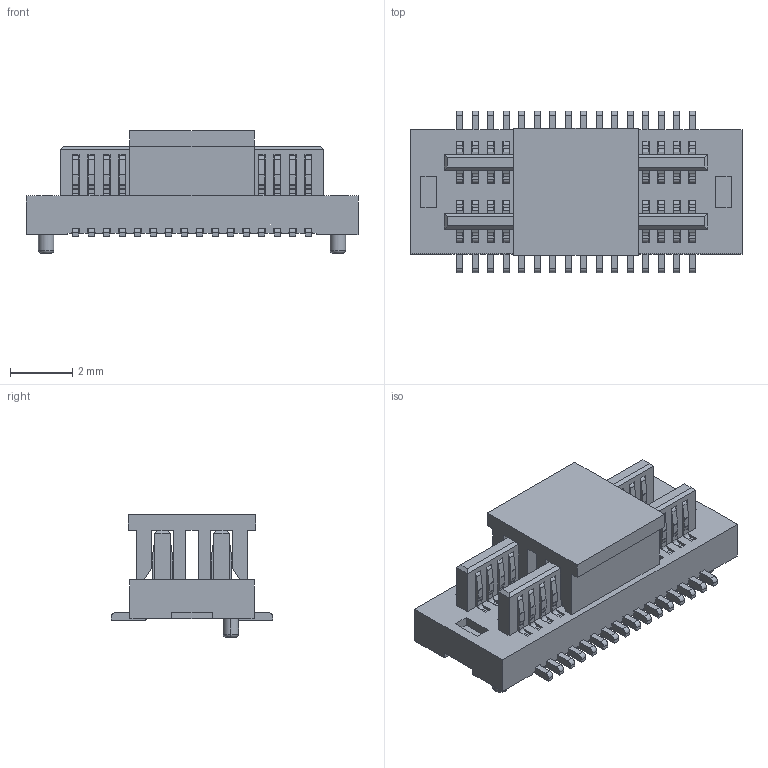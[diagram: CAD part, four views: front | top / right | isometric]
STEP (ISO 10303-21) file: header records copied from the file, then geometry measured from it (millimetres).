
FILE_DESCRIPTION(('CATIA V5 STEP Exchange'),'2;1');
FILE_NAME('F:\黄富鸿\板对板\PBB05\公座\H1.3\编带+盖\HC-PBB05-2-32-M-H1.3-G1-R-P-04（BTB0.5 双槽 公座 立贴 带柱 编带+盖）-HCTL.stp','2025-12-17T02:57:16+00:00',('none'),('none'),'CATIA Version 5 Release 20 GA (IN-10)','CATIA V5 STEP AP203','none');
FILE_SCHEMA(('CONFIG_CONTROL_DESIGN'));
Length unit declared in the file: millimetre
Products named in the file (1): Part2
Bounding box: 10.7 x 5.2 x 3.95 mm (x, y, z)
Volume: 84.3 mm3; surface area: 636.5 mm2
Topology: 34 solids, 34 shells, 1872 faces, 5702 edges, 3776 vertices
Faces by surface type: plane 1224, cylinder 644, torus 4
Entity records: 55003 total; most frequent: ORIENTED_EDGE 11404, CARTESIAN_POINT 10196, DIRECTION 6240, EDGE_CURVE 5702, VECTOR 4278, LINE 4278, VERTEX_POINT 3776, EDGE_LOOP 1878
